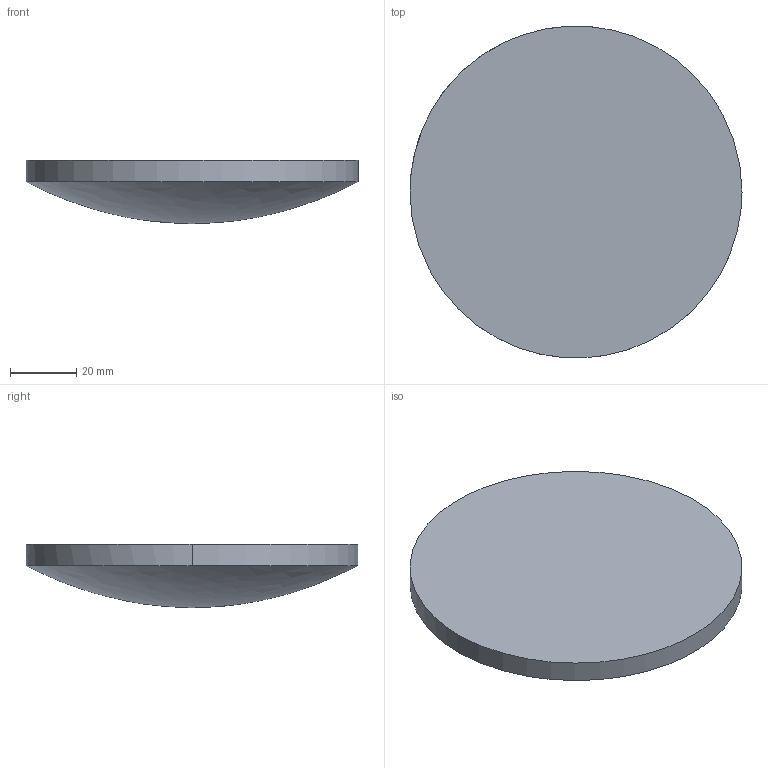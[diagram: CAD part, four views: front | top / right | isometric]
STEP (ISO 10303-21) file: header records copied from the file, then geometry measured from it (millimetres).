
FILE_DESCRIPTION ((), '1');
FILE_NAME ('\\fileserver\Daten\Applikationen\Optikdesign\SPA-Design\aktuelle SPA-Designs\Linsenkataloge - 2016-Juni\Zemax\ALL\ALL100-200.STP', '2016-05-24T14:22:45', ('Unknown'), ('Unknown'), 'HarmonyWare STEP v2.0.1', 'HarmonyWare Translators', '');
FILE_SCHEMA (('CONFIG_CONTROL_DESIGN'));
Length unit declared in the file: millimetre
Products named in the file (1): NONE
Bounding box: 100 x 99.94 x 19 mm (x, y, z)
Volume: 100495.9 mm3; surface area: 18227.7 mm2
Topology: 1 solids, 1 shells, 4 faces, 9 edges, 6 vertices
Faces by surface type: cylinder 2, bspline 1, plane 1
Entity records: 305 total; most frequent: CARTESIAN_POINT 154, ORIENTED_EDGE 16, EDGE_CURVE 8, PERSON 8, ORGANIZATION 8, PERSON_AND_ORGANIZATION 8, VERTEX_POINT 6, DIRECTION 6
